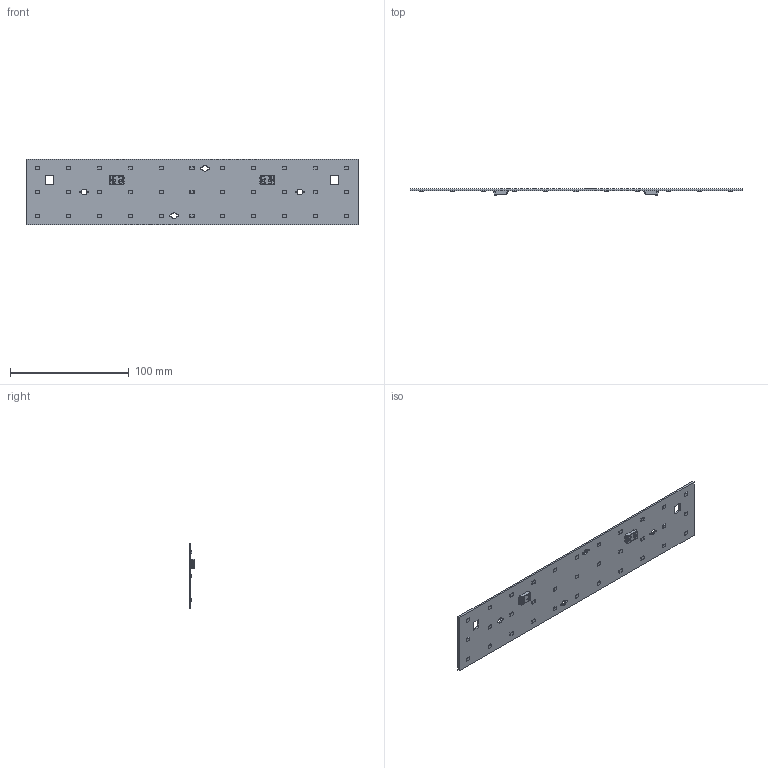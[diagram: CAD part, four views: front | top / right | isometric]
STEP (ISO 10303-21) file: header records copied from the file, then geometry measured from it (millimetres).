
FILE_DESCRIPTION(/* description */ ('Unknown'),/* implementation_level */ '2;1');
FILE_NAME(/* name */ 'LinLED 3-Row 1100lm_per_1ft G2 sh-000 2020-07-07',/* time_stamp */ '2020-07-07T08:32:58+02:00',/* author */ ('Unknown'),/* organization */ ('Unknown'),/* preprocessor_version */ 'ST-DEVELOPER v16.7',/* originating_system */ 'Solid Edge',/* authorisation */ 'Unknown');
FILE_SCHEMA (('AUTOMOTIVE_DESIGN {1 0 10303 214 3 1 1}'));
Products named in the file (1): LinLED 3-Row 1100lm_per_1ft G2 sh-000 2020-07-07
Bounding box: 280 x 5.05 x 55 mm (x, y, z)
Volume: 25034.8 mm3; surface area: 32711.1 mm2
Topology: 1 solids, 1 shells, 1388 faces, 3634 edges, 2312 vertices
Faces by surface type: plane 876, cylinder 244, bspline 174, cone 52, torus 22, sphere 20
Entity records: 56318 total; most frequent: CARTESIAN_POINT 14227, ORIENTED_EDGE 7192, DIRECTION 5832, EDGE_CURVE 3596, LINE 2486, VECTOR 2486, VERTEX_POINT 2302, AXIS2_PLACEMENT_3D 1673
